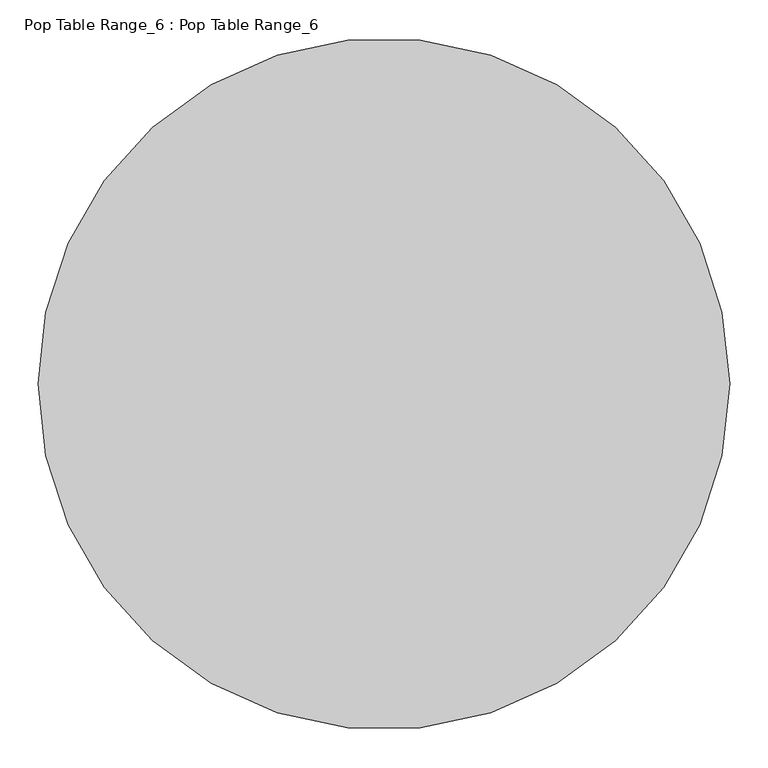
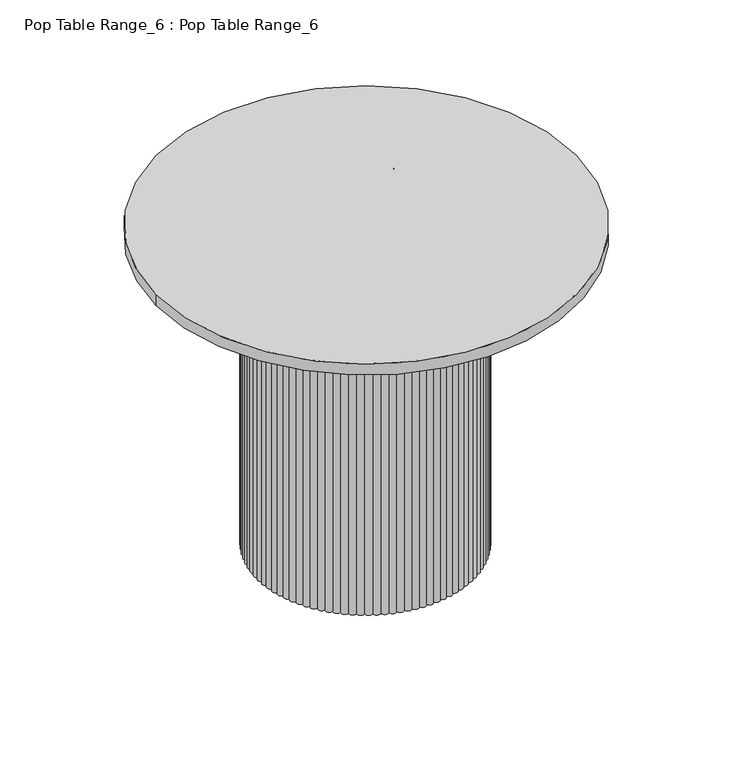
"""IFC4 building model written with IfcOpenShell, lengths in millimetres: proxy geometry, Pop Table Range_6 : Pop Table Range_6."""

import ifcopenshell
import ifcopenshell.guid

model = None  # the IFC model being written
_history = None  # IfcOwnerHistory: only IFC2X3 demands one
_inside = {}  # id of a spatial element -> (the spatial element, [elements in it])
_under = {}  # id of a project, library or spatial element -> (it, [spatial elements below it])
_declared = {}  # id of a project -> (the project, [libraries it declares])
_typed = {}  # id of a type object -> (the type object, [elements of that type])
_made_of = {}  # id of a material, layer set ... -> (it, [elements and type objects made of it])


def new_model(schema):
    """Start an empty IFC model of exactly this schema.

    Asked for "IFC4X3", IfcOpenShell would pick the latest addendum, in which some entities
    have other attributes; the version numbers below select the first issue.
    IFC2X3 requires an IfcOwnerHistory on every rooted entity: one is made here for all.
    """
    global model, _history
    if schema == "IFC4X3":
        model = ifcopenshell.file(schema_version=(4, 3, 0, 0))
    else:
        model = ifcopenshell.file(schema=schema)
    _inside.clear()
    _under.clear()
    _declared.clear()
    _typed.clear()
    _made_of.clear()
    _history = None
    if model.schema == "IFC2X3":
        org = make("IfcOrganization", Name="unknown")
        user = make(
            "IfcPersonAndOrganization",
            ThePerson=make("IfcPerson", FamilyName="unknown"),
            TheOrganization=org,
        )
        app = make(
            "IfcApplication",
            ApplicationDeveloper=org,
            Version="unknown",
            ApplicationFullName="unknown",
            ApplicationIdentifier="unknown",
        )
        _history = make(
            "IfcOwnerHistory",
            OwningUser=user,
            OwningApplication=app,
            ChangeAction="ADDED",
            CreationDate=0,
        )
    return model


def make(cls, **values):
    """One entity of the class cls with the attributes given. An attribute that is None is left unset."""
    return model.create_entity(
        cls, **{name: value for name, value in values.items() if value is not None}
    )


def rooted(cls, **values):
    """An entity with a GlobalId (a new one), such as an element, a storey or a relation."""
    return make(cls, GlobalId=ifcopenshell.guid.new(), OwnerHistory=_history, **values)


def si_unit(unit_type, name, prefix=None):
    """IfcSIUnit, for example si_unit("LENGTHUNIT", "METRE", prefix="MILLI")."""
    return make("IfcSIUnit", UnitType=unit_type, Prefix=prefix, Name=name)


def assignment(units):
    """IfcUnitAssignment: the units of a project."""
    return None if units is None else make("IfcUnitAssignment", Units=units)


def point(xyz):
    """IfcCartesianPoint."""
    return None if xyz is None else make("IfcCartesianPoint", Coordinates=xyz)


def direction(xyz):
    """IfcDirection."""
    return None if xyz is None else make("IfcDirection", DirectionRatios=xyz)


def frame(location, z_axis=None, x_axis=None):
    """IfcAxis2Placement3D, a coordinate frame: its origin and axes. An axis left out is left unset."""
    return make(
        "IfcAxis2Placement3D",
        Location=point(location),
        Axis=direction(z_axis),
        RefDirection=direction(x_axis),
    )


def frame_2d(location, x_axis=None):
    """IfcAxis2Placement2D, a coordinate frame in the plane: its origin and x axis."""
    return make(
        "IfcAxis2Placement2D", Location=point(location), RefDirection=direction(x_axis)
    )


def origin():
    """The frame at (0, 0, 0) with its axes left unset."""
    return frame((0.0, 0.0, 0.0))


def origin_with_axes():
    """The frame at (0, 0, 0) with the z axis (0, 0, 1) and the x axis (1, 0, 0) written out."""
    return frame((0.0, 0.0, 0.0), z_axis=(0.0, 0.0, 1.0), x_axis=(1.0, 0.0, 0.0))


def origin_2d():
    """The frame at (0, 0) in the plane with its x axis left unset."""
    return frame_2d((0.0, 0.0))


def place(relative_to, where):
    """IfcLocalPlacement: puts the frame where relative to a parent placement (None: the world)."""
    return make(
        "IfcLocalPlacement", PlacementRelTo=relative_to, RelativePlacement=where
    )


def context(
    kind, dimensions, precision=None, world=None, true_north=None, identifier=None
):
    """IfcGeometricRepresentationContext, for example the 3D "Model" context."""
    return make(
        "IfcGeometricRepresentationContext",
        ContextIdentifier=identifier,
        ContextType=kind,
        CoordinateSpaceDimension=dimensions,
        Precision=precision,
        WorldCoordinateSystem=world,
        TrueNorth=true_north,
    )


def project(units=None, contexts=None):
    """IfcProject with its units and contexts."""
    return rooted(
        "IfcProject",
        Name="project",
        RepresentationContexts=contexts,
        UnitsInContext=assignment(units),
    )


def spatial(cls, under=None, at=None, **own):
    """A site, building, storey or space (cls), placed at a placement, below another one or the project."""
    s = rooted(cls, ObjectPlacement=at, **own)
    if under is not None:
        _under.setdefault(under.id(), (under, []))[1].append(s)
    return s


def polyline(points):
    """IfcPolyline through the points."""
    return make("IfcPolyline", Points=[point(p) for p in points])


def circle_curve(where, radius):
    """IfcCircle in the frame where."""
    return make("IfcCircle", Position=where, Radius=radius)


def trimmed(basis, trim1, trim2, sense, master):
    """IfcTrimmedCurve: the piece of a basis curve between two trims."""
    return make(
        "IfcTrimmedCurve",
        BasisCurve=basis,
        Trim1=trim1,
        Trim2=trim2,
        SenseAgreement=sense,
        MasterRepresentation=master,
    )


def segment(curve, same_sense, transition):
    """IfcCompositeCurveSegment."""
    return make(
        "IfcCompositeCurveSegment",
        Transition=transition,
        SameSense=same_sense,
        ParentCurve=curve,
    )


def composite_curve(segments, self_intersect=None):
    """IfcCompositeCurve: segments joined end to end."""
    return make("IfcCompositeCurve", Segments=segments, SelfIntersect=self_intersect)


def outline(outer, holes=None, kind="AREA"):
    """IfcArbitraryClosedProfileDef: a profile drawn as a closed curve; with holes, ...WithVoids."""
    if holes is None:
        return make("IfcArbitraryClosedProfileDef", ProfileType=kind, OuterCurve=outer)
    return make(
        "IfcArbitraryProfileDefWithVoids",
        ProfileType=kind,
        OuterCurve=outer,
        InnerCurves=holes,
    )


def extrude(swept, where, along, depth):
    """IfcExtrudedAreaSolid: the profile swept, set in the frame where, extruded along a direction by depth."""
    return make(
        "IfcExtrudedAreaSolid",
        SweptArea=swept,
        Position=where,
        ExtrudedDirection=direction(along),
        Depth=depth,
    )


def shape(context_of_items, identifier, shape_type, items):
    """IfcShapeRepresentation: the items that make up one representation, for example the "Body"."""
    return make(
        "IfcShapeRepresentation",
        ContextOfItems=context_of_items,
        RepresentationIdentifier=identifier,
        RepresentationType=shape_type,
        Items=items,
    )


def source(mapping_origin, context_of_items, identifier, shape_type, items):
    """IfcRepresentationMap: a shape defined once, which mapped items show again and again."""
    return make(
        "IfcRepresentationMap",
        MappingOrigin=mapping_origin,
        MappedRepresentation=shape(context_of_items, identifier, shape_type, items),
    )


def transform(
    local_origin,
    x_axis=None,
    y_axis=None,
    z_axis=None,
    scale=None,
    scale2=None,
    scale3=None,
    uniform=True,
):
    """IfcCartesianTransformationOperator3D, or its non-uniform kind. x_axis, y_axis, z_axis: its Axis1, 2, 3."""
    if uniform:
        return make(
            "IfcCartesianTransformationOperator3D",
            Axis1=direction(x_axis),
            Axis2=direction(y_axis),
            LocalOrigin=point(local_origin),
            Scale=scale,
            Axis3=direction(z_axis),
        )
    return make(
        "IfcCartesianTransformationOperator3DnonUniform",
        Axis1=direction(x_axis),
        Axis2=direction(y_axis),
        LocalOrigin=point(local_origin),
        Scale=scale,
        Axis3=direction(z_axis),
        Scale2=scale2,
        Scale3=scale3,
    )


def mapped(mapping_source, mapping_target):
    """IfcMappedItem: shows the shape of a source again, moved by a transform."""
    return make(
        "IfcMappedItem", MappingSource=mapping_source, MappingTarget=mapping_target
    )


def made_of(thing, what):
    """Note that an element or type object is made of a material, layer set ...; save() writes the relation."""
    if what is not None:
        _made_of.setdefault(what.id(), (what, []))[1].append(thing)
    return thing


def element(
    cls,
    number,
    at=None,
    inside=None,
    cuts=None,
    type_object=None,
    material=None,
    context=None,
    identifier="Body",
    shape_type=None,
    held_by="IfcProductDefinitionShape",
    body=None,
    shapes=None,
    **own,
):
    """One element of the class cls, such as IfcWall. Its Tag is "e" and its number.

    at: its placement. inside: the storey or other place that contains it. cuts: it is an
    opening in that element (IfcRelVoidsElement). A single representation is given by context,
    identifier, shape_type and body (its items); several are given by shapes. held_by: the class
    of the entity that holds the representations. save() writes the other relations.
    """
    e = rooted(cls, Tag="e%d" % number, ObjectPlacement=at, **own)
    if body is not None:
        shapes = [shape(context, identifier, shape_type, body)]
    if shapes is not None:
        e.Representation = make(held_by, Representations=shapes)
    if inside is not None:
        _inside.setdefault(inside.id(), (inside, []))[1].append(e)
    if cuts is not None:
        rooted(
            "IfcRelVoidsElement", RelatingBuildingElement=cuts, RelatedOpeningElement=e
        )
    if type_object is not None:
        _typed.setdefault(type_object.id(), (type_object, []))[1].append(e)
    return made_of(e, material)


def aggregate(whole, parts):
    """IfcRelAggregates: a whole, such as a stair, and the parts it consists of."""
    return rooted("IfcRelAggregates", RelatingObject=whole, RelatedObjects=parts)


def save(model, path):
    """Write the relations noted so far, then the file.

    IfcRelAggregates (storeys below a building ...), IfcRelContainedInSpatialStructure (elements
    in a storey), IfcRelDefinesByType, IfcRelAssociatesMaterial and IfcRelDeclares: one each for
    every whole, place, type object, material and project.
    """
    for whole, parts in _under.values():
        aggregate(whole, parts)
    for where, things in _inside.values():
        rooted(
            "IfcRelContainedInSpatialStructure",
            RelatedElements=things,
            RelatingStructure=where,
        )
    for kind, things in _typed.values():
        rooted("IfcRelDefinesByType", RelatedObjects=things, RelatingType=kind)
    for what, things in _made_of.values():
        rooted("IfcRelAssociatesMaterial", RelatedObjects=things, RelatingMaterial=what)
    for by, libraries in _declared.values():
        rooted("IfcRelDeclares", RelatingContext=by, RelatedDefinitions=libraries)
    model.write(path)


def pop_table_range_6_pop_table_range_6_9c32f7e2(model_context):
    return source(origin(), model_context, "Body", "SweptSolid", [
        extrude(outline(composite_curve([segment(trimmed(circle_curve(origin_2d(), 450.0), [point((-450.0, 0.0))], [point((450.0, 0.0))], False, "CARTESIAN"), True, "CONTINUOUS"), segment(trimmed(circle_curve(origin_2d(), 450.0), [point((450.0, 0.0))], [point((-450.0, 0.0))], False, "CARTESIAN"), True, "CONTINUOUS")], self_intersect=False)), frame((0.0, 0.0, 695.0), z_axis=(0.0, 0.0, 1.0), x_axis=(1.0, 0.0, 0.0)), (0.0, 0.0, 1.0), 25.0),
        extrude(outline(composite_curve([segment(trimmed(circle_curve(frame_2d((-226.5456815, -19.129173)), 7.5133095), [point((-226.7619409, -26.6393695))], [point((-227.9951291, -11.757001))], False, "CARTESIAN"), True, "CONTINUOUS"), segment(trimmed(circle_curve(frame_2d((-227.3818856, -4.2791527)), 7.5029516), [point((-227.9951291, -11.757001))], [point((-228.5207418, 3.136863))], False, "CARTESIAN"), True, "CONTINUOUS"), segment(trimmed(circle_curve(frame_2d((-227.0706464, 10.5926692)), 7.5955133), [point((-228.5207418, 3.136863))], [point((-227.7751472, 18.1554399))], False, "CARTESIAN"), True, "CONTINUOUS"), segment(trimmed(circle_curve(frame_2d((-225.8756318, 25.4172798)), 7.5061626), [point((-227.7751472, 18.1554399))], [point((-225.7770088, 32.9227945))], False, "CARTESIAN"), True, "CONTINUOUS"), segment(trimmed(circle_curve(frame_2d((-223.7307469, 40.1383728)), 7.5001171), [point((-225.7770088, 32.9227945))], [point((-223.0758522, 47.6098432))], False, "CARTESIAN"), True, "CONTINUOUS"), segment(trimmed(circle_curve(frame_2d((-220.6126579, 54.6884552)), 7.4949365), [point((-223.0758522, 47.6098432))], [point((-219.4099257, 62.0862595))], False, "CARTESIAN"), True, "CONTINUOUS"), segment(trimmed(circle_curve(frame_2d((-216.476674, 68.9841274)), 7.4956352), [point((-219.4099257, 62.0862595))], [point((-214.7952595, 76.2887418))], False, "CARTESIAN"), True, "CONTINUOUS"), segment(trimmed(circle_curve(frame_2d((-211.4316131, 82.9852944)), 7.4938598), [point((-214.7952595, 76.2887418))], [point((-209.2520319, 90.1551871))], False, "CARTESIAN"), True, "CONTINUOUS"), segment(trimmed(circle_curve(frame_2d((-205.2102334, 96.4985172)), 7.5215671), [point((-209.2520319, 90.1551871))], [point((-202.8044782, 103.6249689))], False, "CARTESIAN"), True, "CONTINUOUS"), segment(trimmed(circle_curve(frame_2d((-198.6019243, 109.827777)), 7.4924153), [point((-202.8044782, 103.6249689))], [point((-195.4808059, 116.6391577))], False, "CARTESIAN"), True, "CONTINUOUS"), segment(trimmed(circle_curve(frame_2d((-190.3888479, 122.2314142)), 7.5631587), [point((-195.4808059, 116.6391577))], [point((-187.3130248, 129.1408774))], False, "CARTESIAN"), True, "CONTINUOUS"), segment(trimmed(circle_curve(frame_2d((-182.2355366, 134.6648647)), 7.5030209), [point((-187.3130248, 129.1408774))], [point((-178.3368555, 141.0754503))], False, "CARTESIAN"), True, "CONTINUOUS"), segment(trimmed(circle_curve(frame_2d((-172.9692481, 146.3067883)), 7.4952056), [point((-178.3368555, 141.0754503))], [point((-168.5915486, 152.3906895))], False, "CARTESIAN"), True, "CONTINUOUS"), segment(trimmed(circle_curve(frame_2d((-162.7976325, 157.1650531)), 7.507597), [point((-168.5915486, 152.3906895))], [point((-158.1197177, 163.0371163))], False, "CARTESIAN"), True, "CONTINUOUS"), segment(trimmed(circle_curve(frame_2d((-152.0290382, 167.424979)), 7.5066448), [point((-158.1197177, 163.0371163))], [point((-146.9671536, 172.9681766))], False, "CARTESIAN"), True, "CONTINUOUS"), segment(trimmed(circle_curve(frame_2d((-140.6933266, 177.0640796)), 7.4924847), [point((-146.9671536, 172.9681766))], [point((-135.1826236, 182.1404445))], False, "CARTESIAN"), True, "CONTINUOUS"), segment(trimmed(circle_curve(frame_2d((-128.6785781, 185.8522756)), 7.4886781), [point((-135.1826236, 182.1404445))], [point((-122.8176585, 190.5138119))], False, "CARTESIAN"), True, "CONTINUOUS"), segment(trimmed(circle_curve(frame_2d((-115.9993229, 193.6453933)), 7.5030995), [point((-122.8176585, 190.5138119))], [point((-109.926327, 198.0516642))], False, "CARTESIAN"), True, "CONTINUOUS"), segment(trimmed(circle_curve(frame_2d((-102.994629, 200.8834339)), 7.4878138), [point((-109.926327, 198.0516642))], [point((-96.5649997, 204.7210404))], False, "CARTESIAN"), True, "CONTINUOUS"), segment(trimmed(circle_curve(frame_2d((-89.4133189, 206.973994)), 7.4981557), [point((-96.5649997, 204.7210404))], [point((-82.7921025, 210.4927767))], False, "CARTESIAN"), True, "CONTINUOUS"), segment(trimmed(circle_curve(frame_2d((-75.5199019, 212.3052655)), 7.494666), [point((-82.7921025, 210.4927767))], [point((-68.6678601, 215.3416353))], False, "CARTESIAN"), True, "CONTINUOUS"), segment(trimmed(circle_curve(frame_2d((-61.2465165, 216.5024882)), 7.5115858), [point((-68.6678601, 215.3416353))], [point((-54.2540349, 219.2464129))], False, "CARTESIAN"), True, "CONTINUOUS"), segment(trimmed(circle_curve(frame_2d((-46.7827827, 219.9669027)), 7.505912), [point((-54.2540349, 219.2464129))], [point((-39.6136547, 222.1900351))], False, "CARTESIAN"), True, "CONTINUOUS"), segment(trimmed(circle_curve(frame_2d((-32.1230845, 222.5050931)), 7.497193), [point((-39.6136547, 222.1900351))], [point((-24.8107381, 224.1596302))], False, "CARTESIAN"), True, "CONTINUOUS"), segment(trimmed(circle_curve(frame_2d((-17.3107195, 223.9034072)), 7.504394), [point((-24.8107381, 224.1596302))], [point((-9.9100144, 225.1465856))], False, "CARTESIAN"), True, "CONTINUOUS"), segment(trimmed(circle_curve(frame_2d((-2.4433277, 225.1465856)), 7.4666867), [point((-9.9100144, 225.1465856))], [point((5.023359, 225.1465856))], False, "CARTESIAN"), True, "CONTINUOUS"), segment(trimmed(circle_curve(frame_2d((12.4308508, 224.0058706)), 7.4948093), [point((5.023359, 225.1465856))], [point((19.9240827, 224.1596302))], False, "CARTESIAN"), True, "CONTINUOUS"), segment(trimmed(circle_curve(frame_2d((27.230029, 222.4569917)), 7.5017218), [point((19.9240827, 224.1596302))], [point((34.7269993, 222.1900351))], False, "CARTESIAN"), True, "CONTINUOUS"), segment(trimmed(circle_curve(frame_2d((41.9130733, 220.0511848)), 7.4976223), [point((34.7269993, 222.1900351))], [point((49.3673796, 219.2464129))], False, "CARTESIAN"), True, "CONTINUOUS"), segment(trimmed(circle_curve(frame_2d((56.386899, 216.602294)), 7.5010011), [point((49.3673796, 219.2464129))], [point((63.7812047, 215.3416353))], False, "CARTESIAN"), True, "CONTINUOUS"), segment(trimmed(circle_curve(frame_2d((70.6466656, 212.3443546)), 7.4912111), [point((63.7812047, 215.3416353))], [point((77.9054468, 210.4927769))], False, "CARTESIAN"), True, "CONTINUOUS"), segment(trimmed(circle_curve(frame_2d((84.5065541, 206.92601)), 7.5030956), [point((77.9054468, 210.4927769))], [point((91.6783429, 204.7210409))], False, "CARTESIAN"), True, "CONTINUOUS"), segment(trimmed(circle_curve(frame_2d((98.0968324, 200.8611153)), 7.4897285), [point((91.6783429, 204.7210409))], [point((105.0396716, 198.0516642))], False, "CARTESIAN"), True, "CONTINUOUS"), segment(trimmed(circle_curve(frame_2d((111.0803516, 193.5901262)), 7.5096695), [point((105.0396716, 198.0516642))], [point((117.9310031, 190.5138119))], False, "CARTESIAN"), True, "CONTINUOUS"), segment(trimmed(circle_curve(frame_2d((123.7258191, 185.7546603)), 7.4986276), [point((117.9310031, 190.5138119))], [point((130.2959683, 182.1404445))], False, "CARTESIAN"), True, "CONTINUOUS"), segment(trimmed(circle_curve(frame_2d((135.8377281, 177.1039816)), 7.4884619), [point((130.2959683, 182.1404445))], [point((142.0804983, 172.9681766))], False, "CARTESIAN"), True, "CONTINUOUS"), segment(trimmed(circle_curve(frame_2d((147.1737177, 167.460168)), 7.501936), [point((142.0804983, 172.9681766))], [point((153.2330624, 163.0371163))], False, "CARTESIAN"), True, "CONTINUOUS"), segment(trimmed(circle_curve(frame_2d((158.0054797, 157.258006)), 7.4949372), [point((153.2330624, 163.0371163))], [point((163.7048932, 152.3906895))], False, "CARTESIAN"), True, "CONTINUOUS"), segment(trimmed(circle_curve(frame_2d((168.0889671, 146.3122783)), 7.4944771), [point((163.7048932, 152.3906895))], [point((173.4502001, 141.0754503))], False, "CARTESIAN"), True, "CONTINUOUS"), segment(trimmed(circle_curve(frame_2d((177.4007557, 134.7038803)), 7.496919), [point((173.4502001, 141.0754503))], [point((182.4263694, 129.1408774))], False, "CARTESIAN"), True, "CONTINUOUS"), segment(trimmed(circle_curve(frame_2d((185.9089908, 122.4971887)), 7.5011499), [point((182.4263694, 129.1408774))], [point((190.5941506, 116.6391577))], False, "CARTESIAN"), True, "CONTINUOUS"), segment(trimmed(circle_curve(frame_2d((193.6651618, 109.7995726)), 7.4974018), [point((190.5941506, 116.6391577))], [point((197.9178279, 103.624958))], False, "CARTESIAN"), True, "CONTINUOUS"), segment(trimmed(circle_curve(frame_2d((200.597127, 96.629449)), 7.4910473), [point((197.9178279, 103.624958))], [point((204.365377, 90.155186))], False, "CARTESIAN"), True, "CONTINUOUS"), segment(trimmed(circle_curve(frame_2d((206.507116, 82.9701662)), 7.4974366), [point((204.365377, 90.155186))], [point((209.9086041, 76.2887417))], False, "CARTESIAN"), True, "CONTINUOUS"), segment(trimmed(circle_curve(frame_2d((211.4197658, 68.9288088)), 7.5134694), [point((209.9086041, 76.2887417))], [point((214.5232703, 62.0862595))], False, "CARTESIAN"), True, "CONTINUOUS"), segment(trimmed(circle_curve(frame_2d((215.7193314, 54.6867658)), 7.4955366), [point((214.5232703, 62.0862595))], [point((218.1891968, 47.6098432))], False, "CARTESIAN"), True, "CONTINUOUS"), segment(trimmed(circle_curve(frame_2d((218.9075986, 40.1500526)), 7.494303), [point((218.1891968, 47.6098432))], [point((220.8903534, 32.9227944))], False, "CARTESIAN"), True, "CONTINUOUS"), segment(trimmed(circle_curve(frame_2d((221.0697503, 25.42667)), 7.4982707), [point((220.8903534, 32.9227944))], [point((222.6149288, 18.0893349))], False, "CARTESIAN"), True, "CONTINUOUS"), segment(trimmed(circle_curve(frame_2d((222.4295901, 10.6042521)), 7.487377), [point((222.6149288, 18.0893349))], [point((223.3553814, 3.1743312))], False, "CARTESIAN"), True, "CONTINUOUS"), segment(trimmed(circle_curve(frame_2d((222.5559678, -4.2801571)), 7.49723), [point((223.3553814, 3.1743312))], [point((223.1084738, -11.757001))], False, "CARTESIAN"), True, "CONTINUOUS"), segment(trimmed(circle_curve(frame_2d((222.080784, -19.1641209)), 7.4780727), [point((223.1084738, -11.757001))], [point((221.8752856, -26.6393695))], False, "CARTESIAN"), True, "CONTINUOUS"), segment(trimmed(circle_curve(frame_2d((220.1193834, -33.9262554)), 7.4954585), [point((221.8752856, -26.6393695))], [point((219.6612091, -41.4076975))], False, "CARTESIAN"), True, "CONTINUOUS"), segment(trimmed(circle_curve(frame_2d((217.4484333, -48.5671619)), 7.4936178), [point((219.6612091, -41.4076975))], [point((216.4759261, -55.9974067))], False, "CARTESIAN"), True, "CONTINUOUS"), segment(trimmed(circle_curve(frame_2d((213.5651521, -62.9286627)), 7.5176402), [point((216.4759261, -55.9974067))], [point((212.3333648, -70.3447003))], False, "CARTESIAN"), True, "CONTINUOUS"), segment(trimmed(circle_curve(frame_2d((209.1895494, -77.1475674)), 7.4941695), [point((212.3333648, -70.3447003))], [point((207.2516397, -84.386841))], False, "CARTESIAN"), True, "CONTINUOUS"), segment(trimmed(circle_curve(frame_2d((203.5336735, -90.9094122)), 7.5078098), [point((207.2516397, -84.386841))], [point((201.2529719, -98.0624261))], False, "CARTESIAN"), True, "CONTINUOUS"), segment(trimmed(circle_curve(frame_2d((197.1738352, -104.3571392)), 7.5008512), [point((201.2529719, -98.0624261))], [point((194.363592, -111.3116559))], False, "CARTESIAN"), True, "CONTINUOUS"), segment(trimmed(circle_curve(frame_2d((189.7847774, -117.2668088)), 7.5119498), [point((194.363592, -111.3116559))], [point((186.6136255, -124.0765948))], False, "CARTESIAN"), True, "CONTINUOUS"), segment(trimmed(circle_curve(frame_2d((181.82243, -129.8362123)), 7.4919122), [point((186.6136255, -124.0765948))], [point((178.0369611, -136.3014249))], False, "CARTESIAN"), True, "CONTINUOUS"), segment(trimmed(circle_curve(frame_2d((172.8210768, -141.6879056)), 7.4979746), [point((178.0369611, -136.3014249))], [point((168.6711022, -147.9326903))], False, "CARTESIAN"), True, "CONTINUOUS"), segment(trimmed(circle_curve(frame_2d((163.0691162, -152.9244608)), 7.503334), [point((168.6711022, -147.9326903))], [point((158.5570034, -158.9195304))], False, "CARTESIAN"), True, "CONTINUOUS"), segment(trimmed(circle_curve(frame_2d((152.6579087, -163.5517462)), 7.5004494), [point((158.5570034, -158.9195304))], [point((147.7388913, -169.2139022))], False, "CARTESIAN"), True, "CONTINUOUS"), segment(trimmed(circle_curve(frame_2d((141.4953144, -173.3845999)), 7.50846), [point((147.7388913, -169.2139022))], [point((136.2640705, -178.7707914))], False, "CARTESIAN"), True, "CONTINUOUS"), segment(trimmed(circle_curve(frame_2d((129.9394344, -182.7687629)), 7.482299), [point((136.2640705, -178.7707914))], [point((124.1827176, -187.5484082))], False, "CARTESIAN"), True, "CONTINUOUS"), segment(trimmed(circle_curve(frame_2d((117.552053, -191.0313396)), 7.4897613), [point((124.1827176, -187.5484082))], [point((111.5476611, -195.5083701))], False, "CARTESIAN"), True, "CONTINUOUS"), segment(trimmed(circle_curve(frame_2d((104.6915355, -198.5274102)), 7.4913992), [point((111.5476611, -195.5083701))], [point((98.414151, -202.6158703))], False, "CARTESIAN"), True, "CONTINUOUS"), segment(trimmed(circle_curve(frame_2d((91.2459058, -204.8969324)), 7.522432), [point((98.414151, -202.6158703))], [point((84.8396164, -208.8398297))], False, "CARTESIAN"), True, "CONTINUOUS"), segment(trimmed(circle_curve(frame_2d((77.6998521, -211.0717865)), 7.480499), [point((84.8396164, -208.8398297))], [point((70.8834167, -214.1530319))], False, "CARTESIAN"), True, "CONTINUOUS"), segment(trimmed(circle_curve(frame_2d((63.5872254, -215.828281)), 7.4860448), [point((70.8834167, -214.1530319))], [point((56.6065773, -218.5322443))], False, "CARTESIAN"), True, "CONTINUOUS"), segment(trimmed(circle_curve(frame_2d((49.1696269, -219.526496)), 7.5031172), [point((56.6065773, -218.5322443))], [point((42.0715276, -221.9583174))], False, "CARTESIAN"), True, "CONTINUOUS"), segment(trimmed(circle_curve(frame_2d((34.5808321, -222.4331479)), 7.5057301), [point((42.0715276, -221.9583174))], [point((27.3418258, -224.4162699))], False, "CARTESIAN"), True, "CONTINUOUS"), segment(trimmed(circle_curve(frame_2d((19.8637124, -224.6721512)), 7.48249), [point((27.3418258, -224.4162699))], [point((12.4818812, -225.8953537))], False, "CARTESIAN"), True, "CONTINUOUS"), segment(trimmed(circle_curve(frame_2d((4.9999229, -225.5571926)), 7.4895962), [point((12.4818812, -225.8953537))], [point((-2.4433277, -226.3891014))], False, "CARTESIAN"), True, "CONTINUOUS"), segment(trimmed(circle_curve(frame_2d((-9.8837397, -225.4713872)), 7.4967947), [point((-2.4433277, -226.3891014))], [point((-17.3685365, -225.8953538))], False, "CARTESIAN"), True, "CONTINUOUS"), segment(trimmed(circle_curve(frame_2d((-24.7456586, -224.6248405)), 7.4857288), [point((-17.3685365, -225.8953538))], [point((-32.2284812, -224.4162699))], False, "CARTESIAN"), True, "CONTINUOUS"), segment(trimmed(circle_curve(frame_2d((-39.4628926, -222.4056127)), 7.5086251), [point((-32.2284812, -224.4162699))], [point((-46.958183, -221.9583174))], False, "CARTESIAN"), True, "CONTINUOUS"), segment(trimmed(circle_curve(frame_2d((-54.0443866, -219.4760293)), 7.5083977), [point((-46.958183, -221.9583174))], [point((-61.4932326, -218.5322443))], False, "CARTESIAN"), True, "CONTINUOUS"), segment(trimmed(circle_curve(frame_2d((-68.4256904, -215.671174)), 7.4996463), [point((-61.4932326, -218.5322443))], [point((-75.770072, -214.1530319))], False, "CARTESIAN"), True, "CONTINUOUS"), segment(trimmed(circle_curve(frame_2d((-82.5101459, -210.8712068)), 7.4965975), [point((-75.770072, -214.1530319))], [point((-89.7262723, -208.8398295))], False, "CARTESIAN"), True, "CONTINUOUS"), segment(trimmed(circle_curve(frame_2d((-96.2198417, -205.0872916)), 7.4998656), [point((-89.7262723, -208.8398295))], [point((-103.3008064, -202.6158703))], False, "CARTESIAN"), True, "CONTINUOUS"), segment(trimmed(circle_curve(frame_2d((-109.5292048, -198.4368919)), 7.5004538), [point((-103.3008064, -202.6158703))], [point((-116.4343165, -195.5083701))], False, "CARTESIAN"), True, "CONTINUOUS"), segment(trimmed(circle_curve(frame_2d((-122.3668916, -190.917343)), 7.5015317), [point((-116.4343165, -195.5083701))], [point((-129.0693729, -187.5484082))], False, "CARTESIAN"), True, "CONTINUOUS"), segment(trimmed(circle_curve(frame_2d((-134.6700644, -182.5540122)), 7.5041146), [point((-129.0693729, -187.5484082))], [point((-141.1507261, -178.7707913))], False, "CARTESIAN"), True, "CONTINUOUS"), segment(trimmed(circle_curve(frame_2d((-146.4153872, -173.4247235)), 7.5031392), [point((-141.1507261, -178.7707913))], [point((-152.6255467, -169.2139022))], False, "CARTESIAN"), True, "CONTINUOUS"), segment(trimmed(circle_curve(frame_2d((-157.4308025, -163.4321967)), 7.5178854), [point((-152.6255467, -169.2139022))], [point((-163.4436589, -158.9195302))], False, "CARTESIAN"), True, "CONTINUOUS"), segment(trimmed(circle_curve(frame_2d((-168.0313305, -152.9940176)), 7.4938929), [point((-163.4436589, -158.9195302))], [point((-173.5577576, -147.9326902))], False, "CARTESIAN"), True, "CONTINUOUS"), segment(trimmed(circle_curve(frame_2d((-177.6467393, -141.6387923)), 7.5055261), [point((-173.5577576, -147.9326902))], [point((-182.9236164, -136.3014249))], False, "CARTESIAN"), True, "CONTINUOUS"), segment(trimmed(circle_curve(frame_2d((-186.6559956, -129.7989657)), 7.4975082), [point((-182.9236164, -136.3014249))], [point((-191.5002809, -124.0765948))], False, "CARTESIAN"), True, "CONTINUOUS"), segment(trimmed(circle_curve(frame_2d((-194.8519283, -117.3763929)), 7.4917452), [point((-191.5002809, -124.0765948))], [point((-199.2502474, -111.3116559))], False, "CARTESIAN"), True, "CONTINUOUS"), segment(trimmed(circle_curve(frame_2d((-201.9998065, -104.3255845)), 7.5076807), [point((-199.2502474, -111.3116559))], [point((-206.1396273, -98.0624261))], False, "CARTESIAN"), True, "CONTINUOUS"), segment(trimmed(circle_curve(frame_2d((-208.59249, -90.984929)), 7.490494), [point((-206.1396273, -98.0624261))], [point((-212.1382951, -84.386841))], False, "CARTESIAN"), True, "CONTINUOUS"), segment(trimmed(circle_curve(frame_2d((-213.8653869, -77.0712742)), 7.5166723), [point((-212.1382951, -84.386841))], [point((-217.2200202, -70.3447002))], False, "CARTESIAN"), True, "CONTINUOUS"), segment(trimmed(circle_curve(frame_2d((-218.7241193, -63.0072879)), 7.4899889), [point((-217.2200202, -70.3447002))], [point((-221.3625818, -55.9974056))], False, "CARTESIAN"), True, "CONTINUOUS"), segment(trimmed(circle_curve(frame_2d((-222.3828719, -48.5775936)), 7.4896331), [point((-221.3625818, -55.9974056))], [point((-224.5478646, -41.4076975))], False, "CARTESIAN"), True, "CONTINUOUS"), segment(trimmed(circle_curve(frame_2d((-224.9563998, -33.9188135)), 7.5000189), [point((-224.5478646, -41.4076975))], [point((-226.7619409, -26.6393695))], False, "CARTESIAN"), True, "CONTINUOUS")], self_intersect=False), holes=[polyline([(-218.7311586, 61.8902759), (-222.3856164, 47.4591482), (-225.0783226, 32.8180471), (-226.7975026, 18.0309944), (-227.2895037, 8.120572), (-227.2895037, -11.7219704), (-226.0601735, -26.5577803), (-223.8530237, -41.2799064), (-220.6777056, -55.8239726), (-216.5481041, -70.1263815), (-211.4822769, -84.1245922), (-205.5023755, -97.7573941), (-198.6345486, -110.9651744), (-190.9088274, -123.6901789), (-182.3589946, -135.8767644), (-173.0224363, -147.471642), (-162.9399789, -158.4241103), (-152.1557106, -168.686277), (-140.716788, -178.2132681), (-128.6732309, -186.9634246), (-116.0777024, -194.8984842), (-102.9852798, -201.983749), (-89.4532128, -208.1882369), (-75.5406737, -213.4848173), (-61.3084985, -217.8503295), (-46.8189209, -221.2656844), (-32.1353001, -223.7159473), (-17.3218439, -225.190404), (-2.4433277, -225.682607), (12.4351885, -225.190404), (27.2486447, -223.7159473), (41.9322655, -221.2656844), (56.4218431, -217.8503295), (70.6540183, -213.4848173), (84.5665574, -208.1882369), (98.0986244, -201.983749), (111.1910471, -194.8984842), (123.7865755, -186.9634246), (135.8301327, -178.2132681), (147.2690552, -168.686277), (158.0533236, -158.4241103), (168.1357809, -147.471642), (177.4723392, -135.8767644), (186.0221721, -123.6901789), (193.7478932, -110.9651744), (200.6157201, -97.7573941), (206.5956215, -84.1245922), (211.6614487, -70.1263815), (215.7910502, -55.8239726), (218.9663683, -41.2799064), (221.1735181, -26.5577803), (222.4028484, -11.7219704), (222.6489835, 3.1626501), (221.9108472, 18.0309944), (220.1916673, 32.8180471), (217.4989611, 47.4591482), (213.8445032, 61.8902759), (209.2442737, 76.0483264), (203.7183882, 89.8713904), (197.29101, 103.299023), (189.9902443, 116.2725086), (181.8480156, 128.7351174), (172.8999277, 140.6323537), (163.1851084, 151.9121938), (152.746038, 162.5253139), (141.6283641, 172.4253055), (129.8807013, 181.5688785), (117.5544192, 189.9160503), (104.7034174, 197.4303209), (91.3838903, 204.0788323), (77.6540805, 209.8325123), (63.5740252, 214.6662013), (49.2052928, 218.5587631), (34.6107142, 221.4931764), (19.8541076, 223.4566097), (5.0, 224.4404774), (-9.8866554, 224.4404774), (-24.7407629, 223.4566097), (-39.4973695, 221.4931764), (-54.0919482, 218.5587631), (-68.4606806, 214.6662013), (-82.5407359, 209.8325123), (-96.2705456, 204.0788323), (-109.5900728, 197.4303209), (-122.4410745, 189.9160503), (-134.7673566, 181.5688785), (-146.5150194, 172.4253055), (-157.6326934, 162.5253139), (-168.0717637, 151.9121938), (-177.786583, 140.6323537), (-186.7346709, 128.7351174), (-194.8768997, 116.2725086), (-202.1776653, 103.299023), (-208.6050436, 89.8713904), (-214.1309291, 76.0483264), (-218.7311586, 61.8902759)])]), origin_with_axes(), (0.0, 0.0, 1.0), 695.0),
    ])


if __name__ == "__main__":
    model = new_model("IFC4")
    model_context = context("Model", 3, world=origin())
    ifc_project = project(units=[si_unit("LENGTHUNIT", "METRE", prefix="MILLI")], contexts=[model_context])
    site = spatial("IfcSite", under=ifc_project)
    building = spatial("IfcBuilding", under=site)
    placement = place(None, origin())
    pop_table_range_6_pop_table_range_6_shape = pop_table_range_6_pop_table_range_6_9c32f7e2(model_context)
    element("IfcBuildingElementProxy", 1, Name="Pop Table Range_6 : Pop Table Range_6", ObjectType="Pop Table Range_6 : Pop Table Range_6", at=placement, inside=building, context=model_context, shape_type="MappedRepresentation", body=[
        mapped(pop_table_range_6_pop_table_range_6_shape, transform((0.0, 0.0, 0.0), x_axis=(1.0, 0.0, 0.0), y_axis=(0.0, 1.0, 0.0), z_axis=(0.0, 0.0, 1.0))),
    ])
    save(model, "model.ifc")
